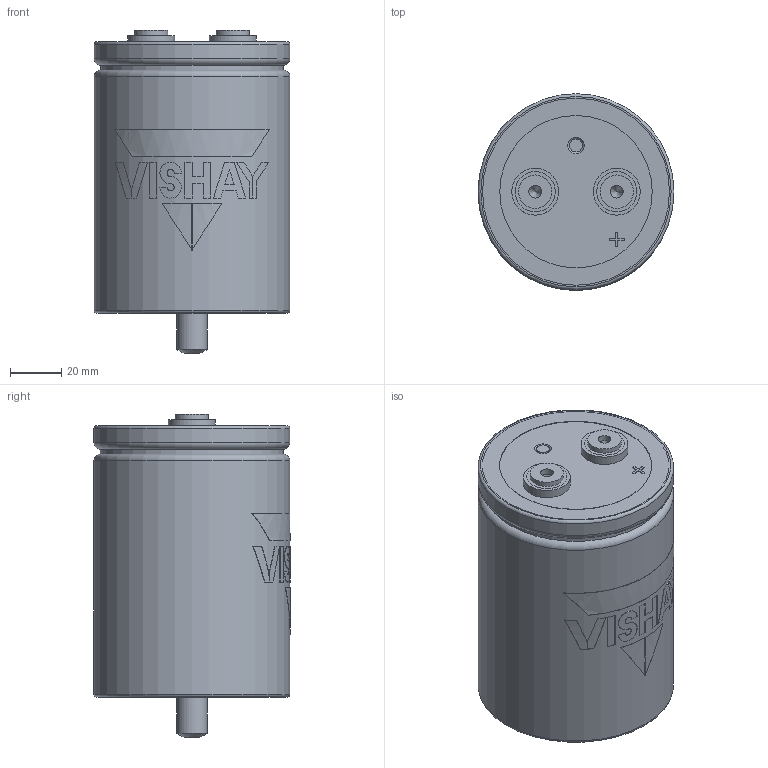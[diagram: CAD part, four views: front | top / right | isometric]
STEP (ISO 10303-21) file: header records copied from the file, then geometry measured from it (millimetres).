
FILE_DESCRIPTION(('FreeCAD Model'),'2;1');
FILE_NAME('C:/Users/tvandesteeg/Documents/Documents/FreeCAD/Stepfiles/ST capacitors/STB_LP_M6_76x105.step','2020-07-02T18:00:20',('Author'),(''), 'Open CASCADE STEP processor 7.3','FreeCAD','Unknown');
FILE_SCHEMA(('AUTOMOTIVE_DESIGN { 1 0 10303 214 1 1 1 1 }'));
Length unit declared in the file: millimetre
Products named in the file (7): VentBody; TerminalBody_(Mirror_#2); TerminalBody; STBBottomBody; Disc; LogoPrint; CanBody
Bounding box: 76.4 x 76.5 x 126 mm (x, y, z)
Volume: 482406 mm3; surface area: 61762.6 mm2
Topology: 17 solids, 17 shells, 152 faces, 318 edges, 209 vertices
Faces by surface type: plane 94, cylinder 49, torus 5, cone 4
Full cylindrical faces by diameter (mm): 5 x4, 11.966 x1, 13 x2, 15.65 x6, 18.3 x2, 59.422 x3, 71.4 x1, 72 x2, 76.4 x2
Entity records: 10788 total; most frequent: CARTESIAN_POINT 3378, DIRECTION 1228, ORIENTED_EDGE 632, PCURVE 632, DEFINITIONAL_REPRESENTATION 632, LINE 542, VECTOR 542, EDGE_CURVE 316
